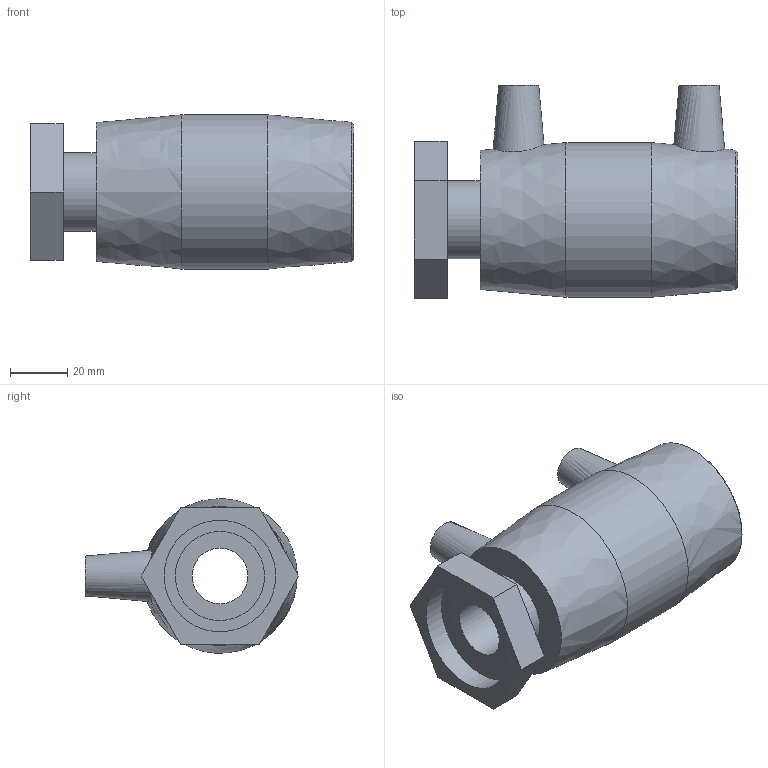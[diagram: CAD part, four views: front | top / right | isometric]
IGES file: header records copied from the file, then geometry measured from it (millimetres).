
Global section: file name: 494104040013; native system: Autodesk Inventor 2026; preprocessor: unknown; author: KIM; date: 20260512.113432; units: millimetre
Bounding box: 113 x 74.48 x 53.92 mm (x, y, z)
Volume: 111423.6 mm3; surface area: 39478.8 mm2
Topology: 1 solids, 1 shells, 36 faces, 81 edges, 59 vertices
Faces by surface type: bspline 36
